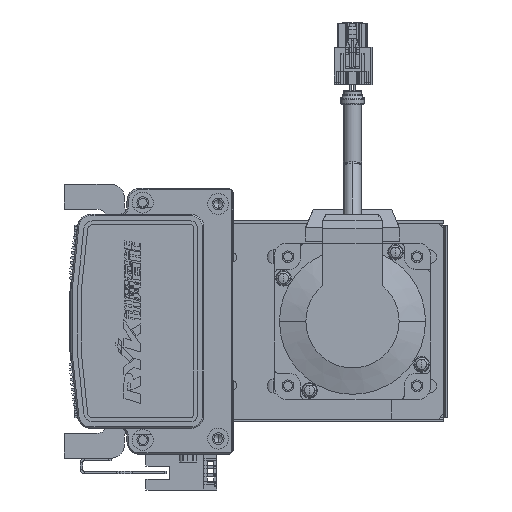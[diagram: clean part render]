
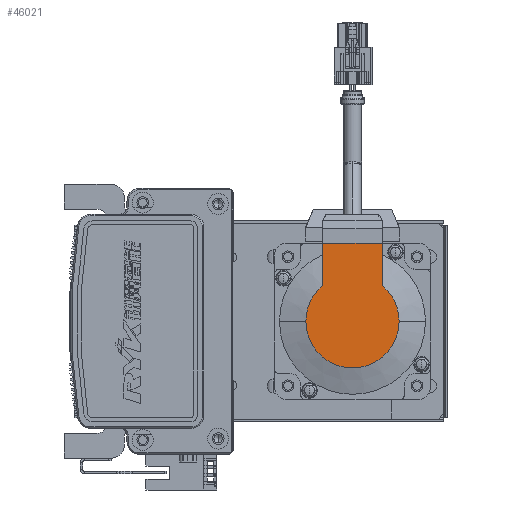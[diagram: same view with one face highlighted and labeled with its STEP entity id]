
A CAD part, left-side view. The second image highlights one B-rep face of the part: STEP entity #46021.
In plain terms, the highlighted planar face has unit normal (-1, 0, 0).
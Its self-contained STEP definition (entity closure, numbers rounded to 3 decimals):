
#6144 = LINE ( 'NONE', #11326, #6168 ) ;
#6168 = VECTOR ( 'NONE', #11350, 1000. ) ;
#7421 = LINE ( 'NONE', #11230, #7427 ) ;
#7427 = VECTOR ( 'NONE', #11267, 1000. ) ;
#11230 = CARTESIAN_POINT ( 'NONE',  ( -99., 0., 11.45 ) ) ;
#11267 = DIRECTION ( 'NONE',  ( 0., -1., 0. ) ) ;
#11326 = CARTESIAN_POINT ( 'NONE',  ( -99., -8.941, -11.45 ) ) ;
#11350 = DIRECTION ( 'NONE',  ( 0., -1., 0. ) ) ;
#12179 = LINE ( 'NONE', #17257, #12253 ) ;
#12253 = VECTOR ( 'NONE', #17260, 1000. ) ;
#17257 = CARTESIAN_POINT ( 'NONE',  ( -99., 30., 25. ) ) ;
#17260 = DIRECTION ( 'NONE',  ( 0., 0., 1. ) ) ;
#22230 = CARTESIAN_POINT ( 'NONE',  ( -99., 0., 0. ) ) ;
#22250 = DIRECTION ( 'NONE',  ( -1., 0., 0. ) ) ;
#22251 = DIRECTION ( 'NONE',  ( 0., 0., -1. ) ) ;
#23696 = VERTEX_POINT ( 'NONE', #41012 ) ;
#23733 = VERTEX_POINT ( 'NONE', #41062 ) ;
#23757 = VERTEX_POINT ( 'NONE', #41069 ) ;
#24209 = VERTEX_POINT ( 'NONE', #41171 ) ;
#24240 = VERTEX_POINT ( 'NONE', #41188 ) ;
#24375 = VERTEX_POINT ( 'NONE', #41262 ) ;
#36122 = CIRCLE ( 'NONE', #86937, 17.881 ) ;
#41012 = CARTESIAN_POINT ( 'NONE',  ( -99., 0., -17.881 ) ) ;
#41062 = CARTESIAN_POINT ( 'NONE',  ( -99., 13.735, 11.45 ) ) ;
#41069 = CARTESIAN_POINT ( 'NONE',  ( -99., 0., 17.881 ) ) ;
#41171 = CARTESIAN_POINT ( 'NONE',  ( -99., 13.735, -11.45 ) ) ;
#41188 = CARTESIAN_POINT ( 'NONE',  ( -99., 30., 11.45 ) ) ;
#41262 = CARTESIAN_POINT ( 'NONE',  ( -99., 30., -11.45 ) ) ;
#46021 = ADVANCED_FACE ( 'NONE', ( #50398 ), #46994, .T. ) ;
#46942 = DIRECTION ( 'NONE',  ( -1., 0., 0. ) ) ;
#46948 = DIRECTION ( 'NONE',  ( 0., 0., 1. ) ) ;
#46994 = PLANE ( 'NONE',  #68642 ) ;
#46997 = CARTESIAN_POINT ( 'NONE',  ( -99., -8.941, 0. ) ) ;
#50398 = FACE_OUTER_BOUND ( 'NONE', #93824, .T. ) ;
#63708 = CARTESIAN_POINT ( 'NONE',  ( -99., 0., 0. ) ) ;
#63709 = DIRECTION ( 'NONE',  ( -1., 0., 0. ) ) ;
#63710 = DIRECTION ( 'NONE',  ( 0., 0., -1. ) ) ;
#63788 = DIRECTION ( 'NONE',  ( 0., 0., -1. ) ) ;
#63795 = CARTESIAN_POINT ( 'NONE',  ( -99., 0., 0. ) ) ;
#63803 = DIRECTION ( 'NONE',  ( -1., 0., 0. ) ) ;
#68642 = AXIS2_PLACEMENT_3D ( 'NONE', #46997, #46942, #46948 ) ;
#72996 = EDGE_CURVE ( 'NONE', #24240, #23733, #7421, .T. ) ;
#73093 = EDGE_CURVE ( 'NONE', #24375, #24209, #6144, .T. ) ;
#86830 = AXIS2_PLACEMENT_3D ( 'NONE', #63795, #63803, #63788 ) ;
#86857 = AXIS2_PLACEMENT_3D ( 'NONE', #63708, #63709, #63710 ) ;
#86937 = AXIS2_PLACEMENT_3D ( 'NONE', #22230, #22250, #22251 ) ;
#93824 = EDGE_LOOP ( 'NONE', ( #99967, #99871, #99863, #99936, #99885, #99975 ) ) ;
#99349 = CIRCLE ( 'NONE', #86857, 17.881 ) ;
#99353 = CIRCLE ( 'NONE', #86830, 17.881 ) ;
#99863 = ORIENTED_EDGE ( 'NONE', *, *, #104412, .T. ) ;
#99871 = ORIENTED_EDGE ( 'NONE', *, *, #104700, .T. ) ;
#99885 = ORIENTED_EDGE ( 'NONE', *, *, #72996, .F. ) ;
#99936 = ORIENTED_EDGE ( 'NONE', *, *, #104387, .T. ) ;
#99967 = ORIENTED_EDGE ( 'NONE', *, *, #73093, .T. ) ;
#99975 = ORIENTED_EDGE ( 'NONE', *, *, #103664, .F. ) ;
#103664 = EDGE_CURVE ( 'NONE', #24375, #24240, #12179, .T. ) ;
#104387 = EDGE_CURVE ( 'NONE', #23757, #23733, #99349, .T. ) ;
#104412 = EDGE_CURVE ( 'NONE', #23696, #23757, #99353, .T. ) ;
#104700 = EDGE_CURVE ( 'NONE', #24209, #23696, #36122, .T. ) ;
